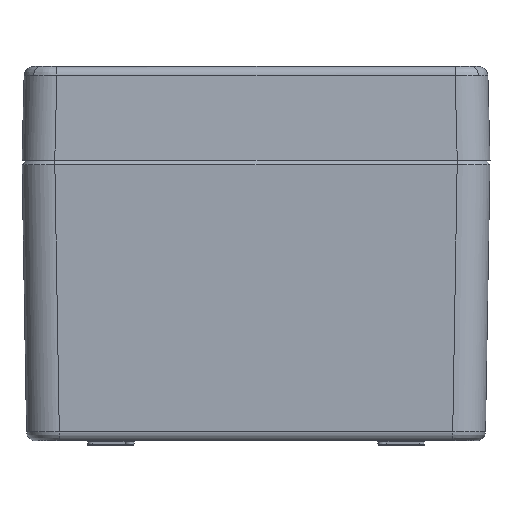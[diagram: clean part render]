
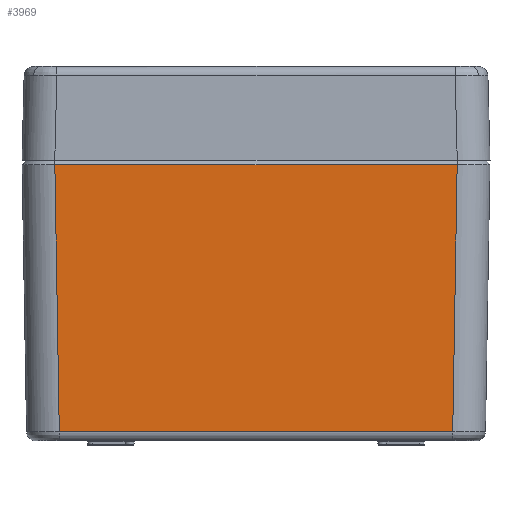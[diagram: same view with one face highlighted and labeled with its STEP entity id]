
A CAD part, left-side view. The second image highlights one B-rep face of the part: STEP entity #3969.
In plain terms, the highlighted planar face has unit normal (-1, 0, -0.017).
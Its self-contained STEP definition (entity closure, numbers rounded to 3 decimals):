
#57 = LINE ( 'NONE', #2544, #36426 ) ;
#1020 = PLANE ( 'NONE',  #9658 ) ;
#1915 = VECTOR ( 'NONE', #28061, 1000. ) ;
#2513 = CARTESIAN_POINT ( 'NONE',  ( -79.033, -42.034, -58.033 ) ) ;
#2544 = CARTESIAN_POINT ( 'NONE',  ( -79., 42.001, -60. ) ) ;
#3178 = EDGE_CURVE ( 'NONE', #14283, #26350, #7598, .T. ) ;
#3969 = ADVANCED_FACE ( 'NONE', ( #35990 ), #1020, .T. ) ;
#4666 = ORIENTED_EDGE ( 'NONE', *, *, #16280, .T. ) ;
#4732 = EDGE_CURVE ( 'NONE', #12560, #26350, #21231, .T. ) ;
#5993 = EDGE_CURVE ( 'NONE', #36760, #12560, #57, .T. ) ;
#7598 = LINE ( 'NONE', #19276, #1915 ) ;
#9195 = EDGE_LOOP ( 'NONE', ( #14882, #4666, #19009, #36065 ) ) ;
#9658 = AXIS2_PLACEMENT_3D ( 'NONE', #15926, #18625, #13232 ) ;
#12560 = VERTEX_POINT ( 'NONE', #25528 ) ;
#13232 = DIRECTION ( 'NONE',  ( -0.017, 0., 1. ) ) ;
#14283 = VERTEX_POINT ( 'NONE', #2513 ) ;
#14882 = ORIENTED_EDGE ( 'NONE', *, *, #5993, .F. ) ;
#15926 = CARTESIAN_POINT ( 'NONE',  ( -80., 50., 0. ) ) ;
#16280 = EDGE_CURVE ( 'NONE', #36760, #14283, #31488, .T. ) ;
#18625 = DIRECTION ( 'NONE',  ( -1., 0., -0.017 ) ) ;
#19009 = ORIENTED_EDGE ( 'NONE', *, *, #3178, .T. ) ;
#19044 = CARTESIAN_POINT ( 'NONE',  ( -79.983, 42.984, -1. ) ) ;
#19276 = CARTESIAN_POINT ( 'NONE',  ( -79., -42.001, -60. ) ) ;
#21231 = LINE ( 'NONE', #19044, #23756 ) ;
#23756 = VECTOR ( 'NONE', #24105, 1000. ) ;
#24105 = DIRECTION ( 'NONE',  ( 0., -1., 0. ) ) ;
#25207 = DIRECTION ( 'NONE',  ( 0., -1., 0. ) ) ;
#25528 = CARTESIAN_POINT ( 'NONE',  ( -79.983, 42.984, -1. ) ) ;
#26350 = VERTEX_POINT ( 'NONE', #31762 ) ;
#28061 = DIRECTION ( 'NONE',  ( -0.017, -0.017, 1. ) ) ;
#28246 = CARTESIAN_POINT ( 'NONE',  ( -79.033, -42.001, -58.033 ) ) ;
#28722 = CARTESIAN_POINT ( 'NONE',  ( -79.033, 42.034, -58.033 ) ) ;
#29316 = DIRECTION ( 'NONE',  ( -0.017, 0.017, 1. ) ) ;
#31488 = LINE ( 'NONE', #28246, #33851 ) ;
#31762 = CARTESIAN_POINT ( 'NONE',  ( -79.983, -42.984, -1. ) ) ;
#33851 = VECTOR ( 'NONE', #25207, 1000. ) ;
#35990 = FACE_OUTER_BOUND ( 'NONE', #9195, .T. ) ;
#36065 = ORIENTED_EDGE ( 'NONE', *, *, #4732, .F. ) ;
#36426 = VECTOR ( 'NONE', #29316, 1000. ) ;
#36760 = VERTEX_POINT ( 'NONE', #28722 ) ;
